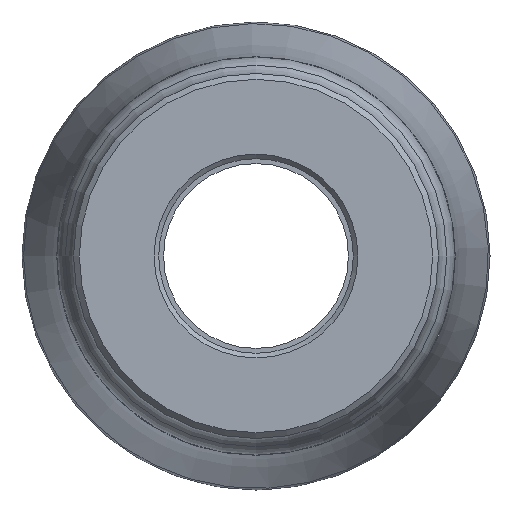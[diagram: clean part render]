
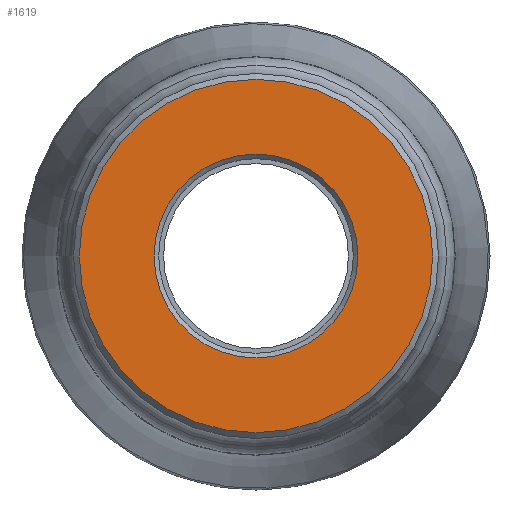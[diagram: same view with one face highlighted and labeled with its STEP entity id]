
A CAD part, left-side view. The second image highlights one B-rep face of the part: STEP entity #1619.
In plain terms, the highlighted planar face has unit normal (-1, 0, 0).
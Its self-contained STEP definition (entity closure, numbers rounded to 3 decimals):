
#29=FACE_BOUND('',#401,.T.);
#212=PLANE('',#1776);
#290=FACE_OUTER_BOUND('',#400,.T.);
#400=EDGE_LOOP('',(#1219));
#401=EDGE_LOOP('',(#1220));
#542=CIRCLE('',#1775,12.639);
#543=CIRCLE('',#1777,21.896);
#728=VERTEX_POINT('',#2890);
#729=VERTEX_POINT('',#2893);
#910=EDGE_CURVE('',#728,#728,#542,.T.);
#911=EDGE_CURVE('',#729,#729,#543,.T.);
#1219=ORIENTED_EDGE('',*,*,#911,.F.);
#1220=ORIENTED_EDGE('',*,*,#910,.F.);
#1619=ADVANCED_FACE('',(#290,#29),#212,.T.);
#1775=AXIS2_PLACEMENT_3D('',#2891,#2067,#2068);
#1776=AXIS2_PLACEMENT_3D('',#2892,#2069,#2070);
#1777=AXIS2_PLACEMENT_3D('',#2894,#2071,#2072);
#2067=DIRECTION('center_axis',(-1.,0.,0.));
#2068=DIRECTION('ref_axis',(0.,-1.,0.));
#2069=DIRECTION('center_axis',(-1.,0.,0.));
#2070=DIRECTION('ref_axis',(0.,0.,1.));
#2071=DIRECTION('center_axis',(1.,0.,0.));
#2072=DIRECTION('ref_axis',(0.,-1.,0.));
#2890=CARTESIAN_POINT('',(0.,12.639,0.));
#2891=CARTESIAN_POINT('Origin',(0.,0.,0.));
#2892=CARTESIAN_POINT('Origin',(0.,22.62,0.));
#2893=CARTESIAN_POINT('',(0.,21.896,0.));
#2894=CARTESIAN_POINT('Origin',(0.,0.,0.));
